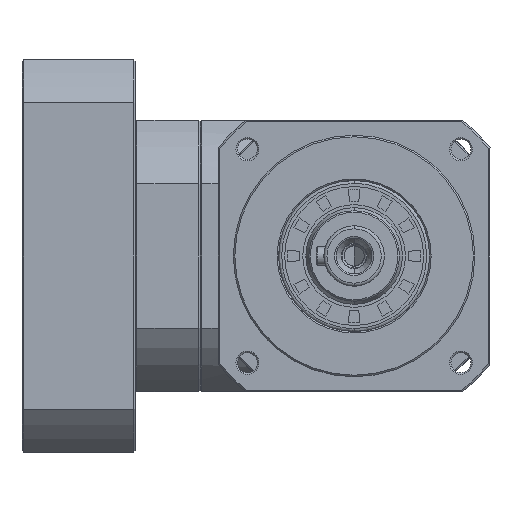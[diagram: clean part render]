
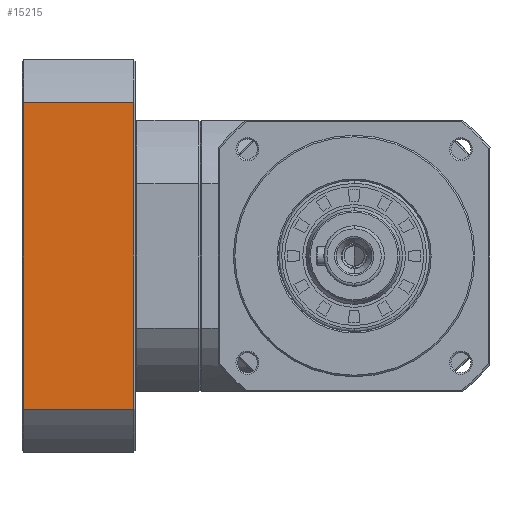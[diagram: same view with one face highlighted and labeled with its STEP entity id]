
A CAD part, left-side view. The second image highlights one B-rep face of the part: STEP entity #15215.
In plain terms, the highlighted planar face has unit normal (-1, 0, 0).
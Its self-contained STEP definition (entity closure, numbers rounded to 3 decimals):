
#431 = EDGE_LOOP ( 'NONE', ( #63974, #36622, #53178, #5542 ) ) ;
#1563 = CARTESIAN_POINT ( 'NONE',  ( 94., 91.25, -50.806 ) ) ;
#2456 = CARTESIAN_POINT ( 'NONE',  ( 94., 109.5, 0. ) ) ;
#3213 = FACE_OUTER_BOUND ( 'NONE', #431, .T. ) ;
#5542 = ORIENTED_EDGE ( 'NONE', *, *, #33012, .T. ) ;
#9140 = DIRECTION ( 'NONE',  ( 0., 1., 0. ) ) ;
#10322 = CARTESIAN_POINT ( 'NONE',  ( 94., 73., -50.806 ) ) ;
#12448 = LINE ( 'NONE', #2456, #30110 ) ;
#12885 = CARTESIAN_POINT ( 'NONE',  ( 94., 73., -50.806 ) ) ;
#13967 = CARTESIAN_POINT ( 'NONE',  ( 94., 91.25, 50.806 ) ) ;
#15215 = ADVANCED_FACE ( 'NONE', ( #3213 ), #40402, .T. ) ;
#16421 = CARTESIAN_POINT ( 'NONE',  ( 94., 109.5, -50.806 ) ) ;
#17242 = EDGE_CURVE ( 'NONE', #48165, #56018, #19360, .T. ) ;
#19141 = CARTESIAN_POINT ( 'NONE',  ( 94., 73., 0. ) ) ;
#19360 = LINE ( 'NONE', #1563, #57273 ) ;
#21379 = VECTOR ( 'NONE', #42325, 1000. ) ;
#25438 = DIRECTION ( 'NONE',  ( -1., 0., 0. ) ) ;
#30110 = VECTOR ( 'NONE', #55322, 1000. ) ;
#33012 = EDGE_CURVE ( 'NONE', #96902, #56018, #12448, .T. ) ;
#36622 = ORIENTED_EDGE ( 'NONE', *, *, #95066, .F. ) ;
#37780 = CARTESIAN_POINT ( 'NONE',  ( 94., 73., 50.806 ) ) ;
#40402 = PLANE ( 'NONE',  #60081 ) ;
#41567 = LINE ( 'NONE', #19141, #21379 ) ;
#42325 = DIRECTION ( 'NONE',  ( 0., 0., -1. ) ) ;
#48165 = VERTEX_POINT ( 'NONE', #12885 ) ;
#48575 = LINE ( 'NONE', #13967, #68618 ) ;
#53178 = ORIENTED_EDGE ( 'NONE', *, *, #95506, .F. ) ;
#55322 = DIRECTION ( 'NONE',  ( 0., 0., -1. ) ) ;
#56018 = VERTEX_POINT ( 'NONE', #16421 ) ;
#57273 = VECTOR ( 'NONE', #9140, 1000. ) ;
#60081 = AXIS2_PLACEMENT_3D ( 'NONE', #10322, #25438, #78308 ) ;
#63974 = ORIENTED_EDGE ( 'NONE', *, *, #17242, .F. ) ;
#68618 = VECTOR ( 'NONE', #82555, 1000. ) ;
#72031 = VERTEX_POINT ( 'NONE', #37780 ) ;
#78308 = DIRECTION ( 'NONE',  ( 0., 0., 1. ) ) ;
#82555 = DIRECTION ( 'NONE',  ( 0., -1., 0. ) ) ;
#84823 = CARTESIAN_POINT ( 'NONE',  ( 94., 109.5, 50.806 ) ) ;
#95066 = EDGE_CURVE ( 'NONE', #72031, #48165, #41567, .T. ) ;
#95506 = EDGE_CURVE ( 'NONE', #96902, #72031, #48575, .T. ) ;
#96902 = VERTEX_POINT ( 'NONE', #84823 ) ;
